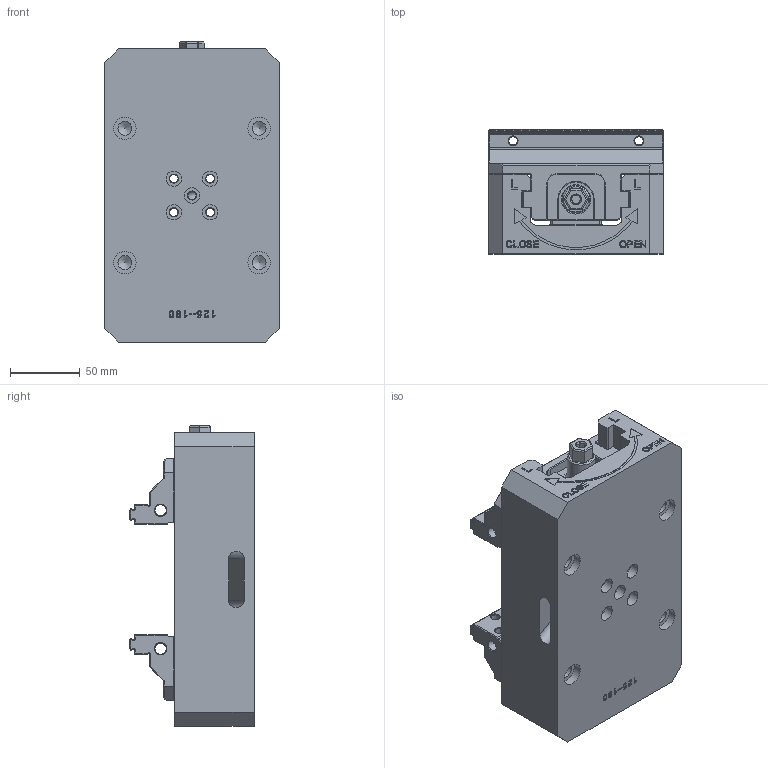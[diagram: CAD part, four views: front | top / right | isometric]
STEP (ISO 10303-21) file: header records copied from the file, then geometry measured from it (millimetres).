
FILE_DESCRIPTION(/* description */ (''),/* implementation_level */ '2;1');
FILE_NAME(/* name */ '',/* time_stamp */ '2023-07-31T13:29:29+08:00',/* author */ (''),/* organization */ (''),/* preprocessor_version */ 'ST-DEVELOPER v11',/* originating_system */ 'SIEMENS PLM Software NX 7.0',/* authorisation */ '');
FILE_SCHEMA (('CONFIG_CONTROL_DESIGN'));
Products named in the file (1): Admi8458jpx2
Bounding box: 125 x 89 x 215 mm (x, y, z)
Volume: 1314284.1 mm3; surface area: 204895.3 mm2
Topology: 5 solids, 5 shells, 1603 faces, 4393 edges, 2845 vertices
Faces by surface type: plane 976, cylinder 470, cone 82, extrusion 60, bspline 12, torus 3
Full cylindrical faces by diameter (mm): 6 x19, 6.5 x5, 8 x4, 10 x4, 11 x5, 16.005 x4, 18 x4, 20 x2, 24 x2, 24.5 x1
Entity records: 57034 total; most frequent: CARTESIAN_POINT 17576, ORIENTED_EDGE 8494, DIRECTION 7526, EDGE_CURVE 4247, VERTEX_POINT 2805, VECTOR 2784, LINE 2724, AXIS2_PLACEMENT_3D 2371
